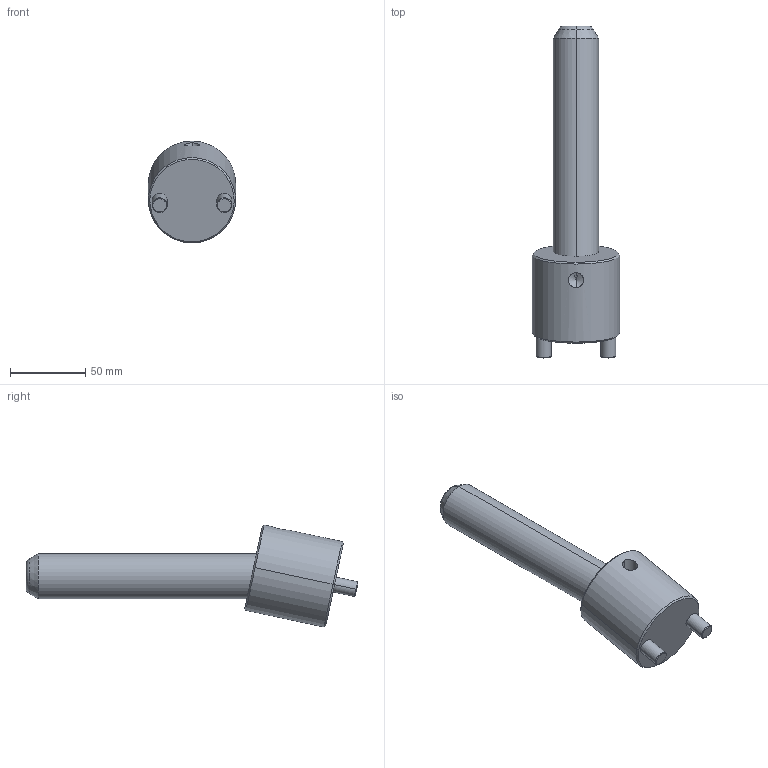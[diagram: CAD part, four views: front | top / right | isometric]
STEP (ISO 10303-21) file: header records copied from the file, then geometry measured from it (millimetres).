
FILE_DESCRIPTION(('CATIA V5 STEP Exchange'),'2;1');
FILE_NAME('C:\Users\Raffaele\Desktop\3D BOLEX\3D FILES CF BOLEX\19-INCLINED ASSEMBLY REF_CI\CI1230150.stp','2019-06-21T14:09:36+00:00',('none'),('none'),'CATIA Version 5 Release 20 GA (IN-10)','CATIA V5 STEP AP203','none');
FILE_SCHEMA(('CONFIG_CONTROL_DESIGN'));
Length unit declared in the file: millimetre
Products named in the file (1): CI1230150
Assembly tree (2 placements, depth 2):
  CI1230150
    #58
    #584
Bounding box: 58 x 220.65 x 67.75 mm (x, y, z)
Volume: 249671.9 mm3; surface area: 40245.7 mm2
Topology: 2 solids, 2 shells, 39 faces, 82 edges, 47 vertices
Faces by surface type: cone 14, cylinder 14, plane 7, torus 4
Entity records: 1533 total; most frequent: CARTESIAN_POINT 670, ORIENTED_EDGE 160, DIRECTION 147, EDGE_CURVE 80, AXIS2_PLACEMENT_3D 74, VERTEX_POINT 47, EDGE_LOOP 43, ADVANCED_FACE 39
